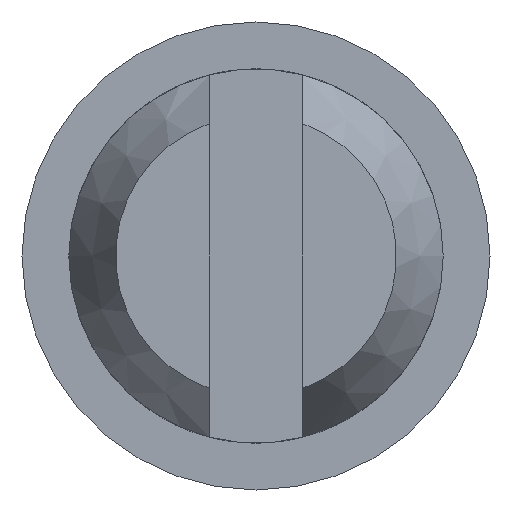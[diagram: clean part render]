
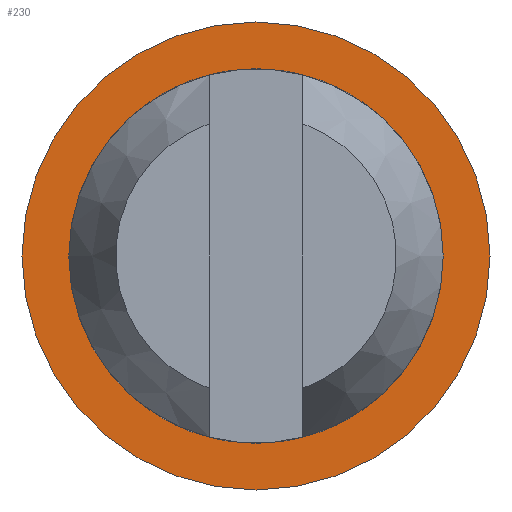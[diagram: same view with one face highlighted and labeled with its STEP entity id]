
A CAD part, front view. The second image highlights one B-rep face of the part: STEP entity #230.
In plain terms, the highlighted planar face has unit normal (0, -1, 0).
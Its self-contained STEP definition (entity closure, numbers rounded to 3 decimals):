
#45=FACE_BOUND('',#94,.T.);
#64=CIRCLE('',#276,2.);
#65=CIRCLE('',#278,2.5);
#78=FACE_OUTER_BOUND('',#93,.T.);
#93=EDGE_LOOP('',(#204));
#94=EDGE_LOOP('',(#205));
#130=VERTEX_POINT('',#403);
#131=VERTEX_POINT('',#407);
#154=EDGE_CURVE('',#130,#130,#64,.T.);
#156=EDGE_CURVE('',#131,#131,#65,.T.);
#204=ORIENTED_EDGE('',*,*,#156,.F.);
#205=ORIENTED_EDGE('',*,*,#154,.T.);
#217=PLANE('',#277);
#230=ADVANCED_FACE('',(#78,#45),#217,.T.);
#276=AXIS2_PLACEMENT_3D('',#404,#336,#337);
#277=AXIS2_PLACEMENT_3D('',#406,#339,#340);
#278=AXIS2_PLACEMENT_3D('',#408,#341,#342);
#336=DIRECTION('center_axis',(0.,1.,0.));
#337=DIRECTION('ref_axis',(1.,0.,0.));
#339=DIRECTION('center_axis',(0.,-1.,0.));
#340=DIRECTION('ref_axis',(0.,0.,-1.));
#341=DIRECTION('center_axis',(0.,1.,0.));
#342=DIRECTION('ref_axis',(1.,0.,0.));
#403=CARTESIAN_POINT('',(2.,-2.,0.));
#404=CARTESIAN_POINT('Origin',(0.,-2.,0.));
#406=CARTESIAN_POINT('Origin',(-2.5,-2.,0.));
#407=CARTESIAN_POINT('',(2.5,-2.,0.));
#408=CARTESIAN_POINT('Origin',(0.,-2.,0.));
